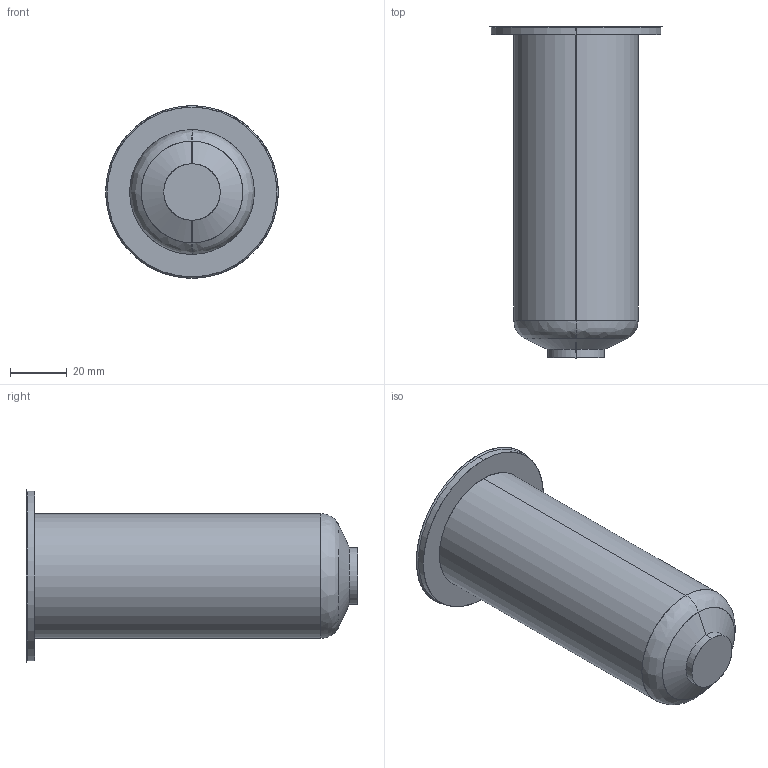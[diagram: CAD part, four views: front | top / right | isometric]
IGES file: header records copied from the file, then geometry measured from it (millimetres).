
Start section: SolidWorks IGES file using analytic representation for surfaces
Global section: file name: C:\Documents and Settings\ws-20\Desktop\TEM\Sede UGER6605-M-A C-114 L-159.IGS; native system: SolidWorks 2012; preprocessor: SolidWorks 2012; author: ws-20; date: 120417.105506; units: millimetre
Bounding box: 61 x 117.29 x 61 mm (x, y, z)
Surface area: 21130.1 mm2 (no closed solid volume)
Topology: 0 solids, 0 shells, 15 faces, 272 edges, 272 vertices
Faces by surface type: revolution 10, bspline 5
